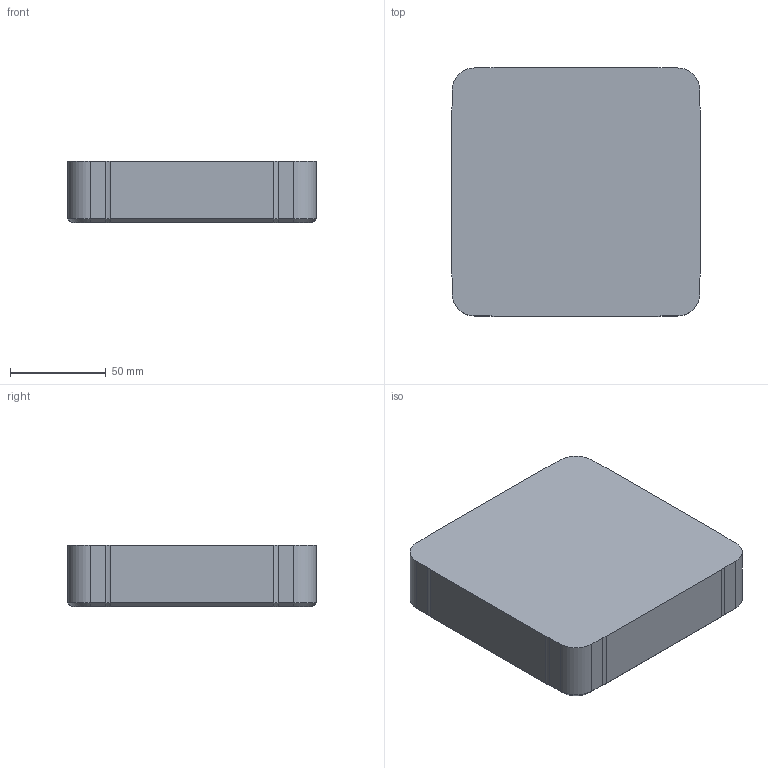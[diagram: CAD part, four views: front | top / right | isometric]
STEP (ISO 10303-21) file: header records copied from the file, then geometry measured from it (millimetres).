
FILE_DESCRIPTION (( 'STEP AP214' ), '1' );
FILE_NAME ('AS-Formeinsatz 130_130_32.STEP', '2024-02-23T09:51:39', ( '' ), ( '' ), 'SwSTEP 2.0', 'SolidWorks 2020', '' );
FILE_SCHEMA (( 'AUTOMOTIVE_DESIGN' ));
Length unit declared in the file: millimetre
Products named in the file (1): AS-Formeinsatz 130_130_32
Bounding box: 130 x 130 x 32 mm (x, y, z)
Volume: 528787.9 mm3; surface area: 51032 mm2
Topology: 1 solids, 1 shells, 62 faces, 148 edges, 88 vertices
Faces by surface type: plane 26, cone 20, cylinder 16
Full cylindrical faces by diameter (mm): 8.5 x4
Entity records: 1710 total; most frequent: CARTESIAN_POINT 303, DIRECTION 298, ORIENTED_EDGE 264, EDGE_CURVE 132, AXIS2_PLACEMENT_3D 111, VERTEX_POINT 84, VECTOR 76, LINE 76
